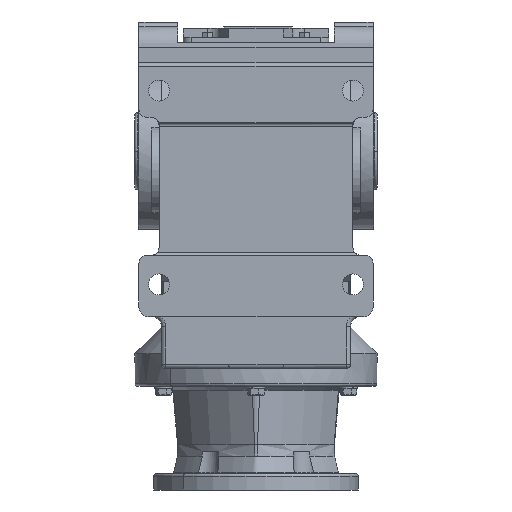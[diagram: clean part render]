
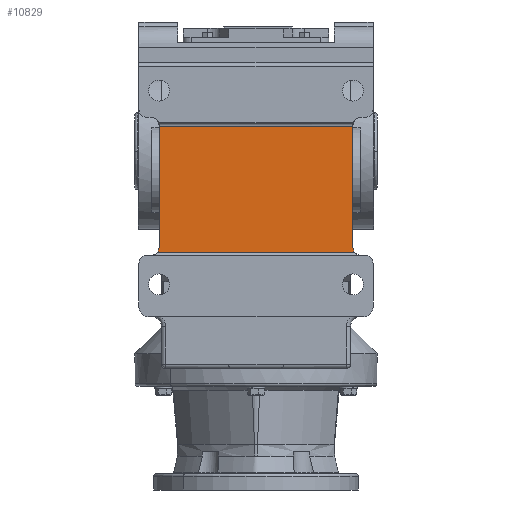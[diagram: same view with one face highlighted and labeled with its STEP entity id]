
A CAD part, front view. The second image highlights one B-rep face of the part: STEP entity #10829.
In plain terms, the highlighted planar face has unit normal (0, -1, 0).
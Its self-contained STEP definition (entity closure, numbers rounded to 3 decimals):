
#638 = AXIS2_PLACEMENT_3D ( 'NONE', #41472, #41473, #41474 ) ;
#1216 = AXIS2_PLACEMENT_3D ( 'NONE', #22835, #22836, #22837 ) ;
#2133 = CARTESIAN_POINT ( 'NONE',  ( -120., -260., 31. ) ) ;
#2155 = CARTESIAN_POINT ( 'NONE',  ( 120., -260., -119. ) ) ;
#2159 = CARTESIAN_POINT ( 'NONE',  ( 122., -260., -125. ) ) ;
#2161 = CARTESIAN_POINT ( 'NONE',  ( -122., -260., -125. ) ) ;
#3972 = AXIS2_PLACEMENT_3D ( 'NONE', #13286, #13298, #13300 ) ;
#10829 = ADVANCED_FACE ( 'NONE', ( #12116 ), #13294, .T. ) ;
#12116 = FACE_OUTER_BOUND ( 'NONE', #22024, .T. ) ;
#13286 = CARTESIAN_POINT ( 'NONE',  ( -145., -260., 31. ) ) ;
#13294 = PLANE ( 'NONE',  #3972 ) ;
#13298 = DIRECTION ( 'NONE',  ( 0., -1., 0. ) ) ;
#13300 = DIRECTION ( 'NONE',  ( 0., 0., -1. ) ) ;
#22024 = EDGE_LOOP ( 'NONE', ( #32307, #32308, #32309, #28668, #28669, #28670 ) ) ;
#22835 = CARTESIAN_POINT ( 'NONE',  ( -130., -260., -119. ) ) ;
#22836 = DIRECTION ( 'NONE',  ( 0., 1., 0. ) ) ;
#22837 = DIRECTION ( 'NONE',  ( 0., 0., -1. ) ) ;
#23045 = CARTESIAN_POINT ( 'NONE',  ( -120., -260., -125. ) ) ;
#23053 = DIRECTION ( 'NONE',  ( 0., 0., 1. ) ) ;
#23066 = CARTESIAN_POINT ( 'NONE',  ( -145., -260., 31. ) ) ;
#23068 = DIRECTION ( 'NONE',  ( 1., 0., 0. ) ) ;
#23372 = CIRCLE ( 'NONE', #1216, 10. ) ;
#23552 = LINE ( 'NONE', #23045, #23562 ) ;
#23562 = VECTOR ( 'NONE', #23053, 1000. ) ;
#23578 = LINE ( 'NONE', #23066, #23584 ) ;
#23584 = VECTOR ( 'NONE', #23068, 1000. ) ;
#24006 = CIRCLE ( 'NONE', #638, 10. ) ;
#24134 = LINE ( 'NONE', #41611, #24137 ) ;
#24137 = VECTOR ( 'NONE', #41612, 1000. ) ;
#24229 = LINE ( 'NONE', #41739, #24236 ) ;
#24236 = VECTOR ( 'NONE', #41740, 1000. ) ;
#26285 = EDGE_CURVE ( 'NONE', #31305, #32570, #23372, .T. ) ;
#26359 = EDGE_CURVE ( 'NONE', #31305, #32542, #23552, .T. ) ;
#26365 = EDGE_CURVE ( 'NONE', #32542, #31326, #23578, .T. ) ;
#26510 = EDGE_CURVE ( 'NONE', #32568, #32564, #24006, .T. ) ;
#26553 = EDGE_CURVE ( 'NONE', #31326, #32564, #24134, .T. ) ;
#26584 = EDGE_CURVE ( 'NONE', #32570, #32568, #24229, .T. ) ;
#28668 = ORIENTED_EDGE ( 'NONE', *, *, #26584, .T. ) ;
#28669 = ORIENTED_EDGE ( 'NONE', *, *, #26510, .T. ) ;
#28670 = ORIENTED_EDGE ( 'NONE', *, *, #26553, .F. ) ;
#31305 = VERTEX_POINT ( 'NONE', #37503 ) ;
#31326 = VERTEX_POINT ( 'NONE', #37524 ) ;
#32307 = ORIENTED_EDGE ( 'NONE', *, *, #26365, .F. ) ;
#32308 = ORIENTED_EDGE ( 'NONE', *, *, #26359, .F. ) ;
#32309 = ORIENTED_EDGE ( 'NONE', *, *, #26285, .T. ) ;
#32542 = VERTEX_POINT ( 'NONE', #2133 ) ;
#32564 = VERTEX_POINT ( 'NONE', #2155 ) ;
#32568 = VERTEX_POINT ( 'NONE', #2159 ) ;
#32570 = VERTEX_POINT ( 'NONE', #2161 ) ;
#37503 = CARTESIAN_POINT ( 'NONE',  ( -120., -260., -119. ) ) ;
#37524 = CARTESIAN_POINT ( 'NONE',  ( 120., -260., 31. ) ) ;
#41472 = CARTESIAN_POINT ( 'NONE',  ( 130., -260., -119. ) ) ;
#41473 = DIRECTION ( 'NONE',  ( 0., 1., 0. ) ) ;
#41474 = DIRECTION ( 'NONE',  ( 0., 0., -1. ) ) ;
#41611 = CARTESIAN_POINT ( 'NONE',  ( 120., -260., 31. ) ) ;
#41612 = DIRECTION ( 'NONE',  ( 0., 0., -1. ) ) ;
#41739 = CARTESIAN_POINT ( 'NONE',  ( -145., -260., -125. ) ) ;
#41740 = DIRECTION ( 'NONE',  ( 1., 0., 0. ) ) ;
